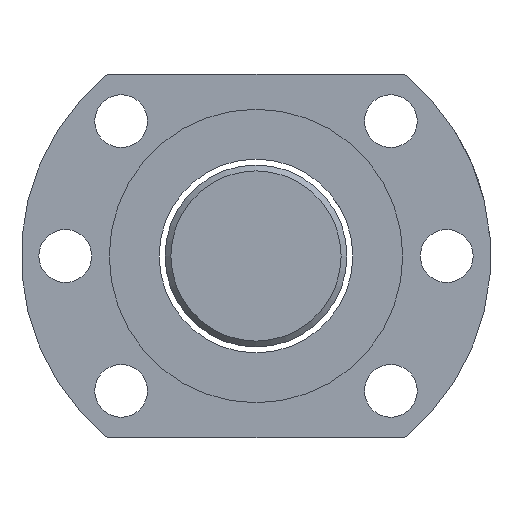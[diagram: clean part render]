
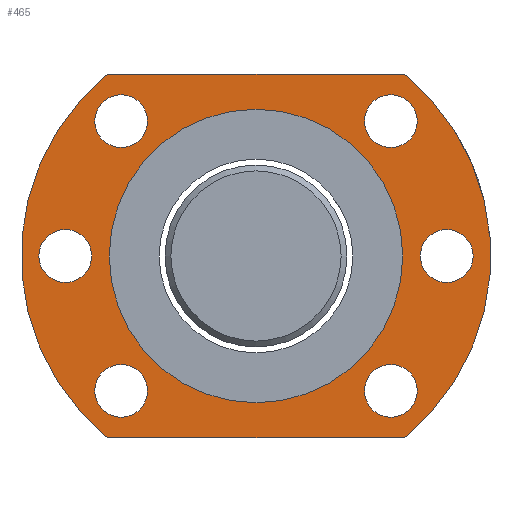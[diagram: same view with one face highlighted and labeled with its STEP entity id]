
A CAD part, left-side view. The second image highlights one B-rep face of the part: STEP entity #465.
In plain terms, the highlighted planar face has unit normal (-1, 0, 0).
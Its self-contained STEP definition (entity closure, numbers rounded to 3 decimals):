
#59=PLANE('',#541);
#76=LINE('',#783,#84);
#79=LINE('',#789,#87);
#84=VECTOR('',#630,1000.);
#87=VECTOR('',#635,1000.);
#125=ORIENTED_EDGE('',*,*,#202,.T.);
#126=ORIENTED_EDGE('',*,*,#206,.T.);
#127=ORIENTED_EDGE('',*,*,#208,.F.);
#128=ORIENTED_EDGE('',*,*,#210,.F.);
#129=ORIENTED_EDGE('',*,*,#212,.F.);
#130=ORIENTED_EDGE('',*,*,#219,.T.);
#131=ORIENTED_EDGE('',*,*,#216,.T.);
#132=ORIENTED_EDGE('',*,*,#190,.T.);
#133=ORIENTED_EDGE('',*,*,#213,.T.);
#134=ORIENTED_EDGE('',*,*,#221,.F.);
#135=ORIENTED_EDGE('',*,*,#204,.T.);
#190=EDGE_CURVE('',#240,#241,#281,.T.);
#202=EDGE_CURVE('',#252,#252,#287,.T.);
#204=EDGE_CURVE('',#254,#254,#289,.T.);
#206=EDGE_CURVE('',#256,#256,#291,.T.);
#208=EDGE_CURVE('',#258,#258,#293,.T.);
#210=EDGE_CURVE('',#260,#260,#295,.T.);
#212=EDGE_CURVE('',#262,#262,#297,.T.);
#213=EDGE_CURVE('',#241,#263,#76,.T.);
#216=EDGE_CURVE('',#265,#240,#79,.T.);
#219=EDGE_CURVE('',#263,#265,#298,.T.);
#221=EDGE_CURVE('',#267,#267,#300,.T.);
#240=VERTEX_POINT('',#711);
#241=VERTEX_POINT('',#712);
#252=VERTEX_POINT('',#756);
#254=VERTEX_POINT('',#761);
#256=VERTEX_POINT('',#766);
#258=VERTEX_POINT('',#771);
#260=VERTEX_POINT('',#776);
#262=VERTEX_POINT('',#781);
#263=VERTEX_POINT('',#784);
#265=VERTEX_POINT('',#790);
#267=VERTEX_POINT('',#799);
#281=CIRCLE('',#512,40.);
#287=CIRCLE('',#520,4.5);
#289=CIRCLE('',#523,4.5);
#291=CIRCLE('',#526,4.5);
#293=CIRCLE('',#529,4.5);
#295=CIRCLE('',#532,4.5);
#297=CIRCLE('',#535,4.5);
#298=CIRCLE('',#539,40.);
#300=CIRCLE('',#542,25.);
#331=EDGE_LOOP('',(#125));
#332=EDGE_LOOP('',(#126));
#333=EDGE_LOOP('',(#127));
#334=EDGE_LOOP('',(#128));
#335=EDGE_LOOP('',(#129));
#336=EDGE_LOOP('',(#130,#131,#132,#133));
#337=EDGE_LOOP('',(#134));
#338=EDGE_LOOP('',(#135));
#394=FACE_BOUND('',#331,.T.);
#395=FACE_BOUND('',#332,.T.);
#396=FACE_BOUND('',#333,.T.);
#397=FACE_BOUND('',#334,.T.);
#398=FACE_BOUND('',#335,.T.);
#399=FACE_BOUND('',#336,.T.);
#400=FACE_BOUND('',#337,.T.);
#401=FACE_BOUND('',#338,.T.);
#465=ADVANCED_FACE('',(#394,#395,#396,#397,#398,#399,#400,#401),#59,.T.);
#512=AXIS2_PLACEMENT_3D('',#710,#578,#579);
#520=AXIS2_PLACEMENT_3D('',#755,#596,#597);
#523=AXIS2_PLACEMENT_3D('',#760,#602,#603);
#526=AXIS2_PLACEMENT_3D('',#765,#608,#609);
#529=AXIS2_PLACEMENT_3D('',#770,#614,#615);
#532=AXIS2_PLACEMENT_3D('',#775,#620,#621);
#535=AXIS2_PLACEMENT_3D('',#780,#626,#627);
#539=AXIS2_PLACEMENT_3D('',#795,#640,#641);
#541=AXIS2_PLACEMENT_3D('',#797,#644,#645);
#542=AXIS2_PLACEMENT_3D('',#798,#646,#647);
#578=DIRECTION('',(-1.,0.,0.));
#579=DIRECTION('',(0.,0.,-1.));
#596=DIRECTION('',(1.,0.,0.));
#597=DIRECTION('',(0.,0.,1.));
#602=DIRECTION('',(1.,0.,0.));
#603=DIRECTION('',(0.,0.,1.));
#608=DIRECTION('',(1.,0.,0.));
#609=DIRECTION('',(0.,0.,1.));
#614=DIRECTION('',(-1.,0.,0.));
#615=DIRECTION('',(0.,0.,1.));
#620=DIRECTION('',(-1.,0.,0.));
#621=DIRECTION('',(0.,0.,1.));
#626=DIRECTION('',(-1.,0.,0.));
#627=DIRECTION('',(0.,0.,1.));
#630=DIRECTION('',(0.,1.,0.));
#635=DIRECTION('',(0.,-1.,0.));
#640=DIRECTION('',(-1.,0.,0.));
#641=DIRECTION('',(0.,0.,-1.));
#644=DIRECTION('',(-1.,0.,0.));
#645=DIRECTION('',(0.,0.,1.));
#646=DIRECTION('',(-1.,0.,0.));
#647=DIRECTION('',(0.,0.,-1.));
#710=CARTESIAN_POINT('',(-36.659,-10.736,7.674));
#711=CARTESIAN_POINT('',(-36.659,-36.014,-23.326));
#712=CARTESIAN_POINT('',(-36.659,-36.014,38.674));
#755=CARTESIAN_POINT('',(-36.659,-33.717,30.655));
#756=CARTESIAN_POINT('',(-36.659,-33.717,35.155));
#760=CARTESIAN_POINT('',(-36.659,-43.236,7.674));
#761=CARTESIAN_POINT('',(-36.659,-43.236,12.174));
#765=CARTESIAN_POINT('',(-36.659,-33.717,-15.307));
#766=CARTESIAN_POINT('',(-36.659,-33.717,-10.807));
#770=CARTESIAN_POINT('',(-36.659,12.245,-15.307));
#771=CARTESIAN_POINT('',(-36.659,12.245,-10.807));
#775=CARTESIAN_POINT('',(-36.659,12.245,30.655));
#776=CARTESIAN_POINT('',(-36.659,12.245,35.155));
#780=CARTESIAN_POINT('',(-36.659,21.764,7.674));
#781=CARTESIAN_POINT('',(-36.659,21.764,12.174));
#783=CARTESIAN_POINT('',(-36.659,-36.014,38.674));
#784=CARTESIAN_POINT('',(-36.659,14.543,38.674));
#789=CARTESIAN_POINT('',(-36.659,14.543,-23.326));
#790=CARTESIAN_POINT('',(-36.659,14.543,-23.326));
#795=CARTESIAN_POINT('',(-36.659,-10.736,7.674));
#797=CARTESIAN_POINT('',(-36.659,-10.736,7.674));
#798=CARTESIAN_POINT('',(-36.659,-10.736,7.674));
#799=CARTESIAN_POINT('',(-36.659,-10.736,-17.326));
